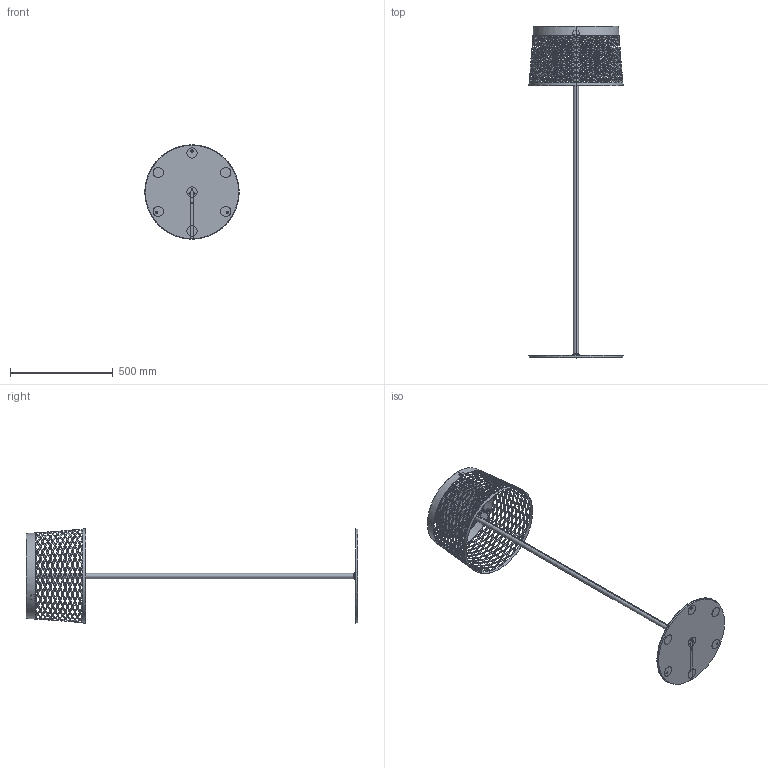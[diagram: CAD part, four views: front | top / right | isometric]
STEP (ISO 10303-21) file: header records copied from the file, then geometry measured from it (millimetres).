
FILE_DESCRIPTION (( 'STEP AP214' ), '1' );
FILE_NAME ('290_STD_OR_LD_2D.STEP', '2021-04-28T13:40:07', ( '' ), ( '' ), 'SwSTEP 2.0', 'SolidWorks 2021', '' );
FILE_SCHEMA (( 'AUTOMOTIVE_DESIGN' ));
Length unit declared in the file: millimetre
Products named in the file (1): 290_STD_OR_LD_2D
Bounding box: 460 x 1617.7 x 460 mm (x, y, z)
Volume: 2117018.9 mm3; surface area: 1822881.2 mm2
Topology: 24 solids, 24 shells, 857 faces, 2169 edges, 1330 vertices
Faces by surface type: cylinder 263, bspline 224, plane 201, cone 93, torus 76
Entity records: 57827 total; most frequent: CARTESIAN_POINT 27937, ORIENTED_EDGE 4318, DIRECTION 4171, EDGE_CURVE 2159, AXIS2_PLACEMENT_3D 1752, VERTEX_POINT 1330, CIRCLE 1118, EDGE_LOOP 993
